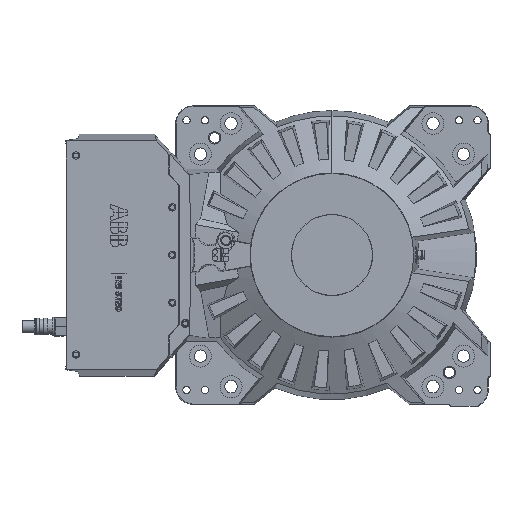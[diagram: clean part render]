
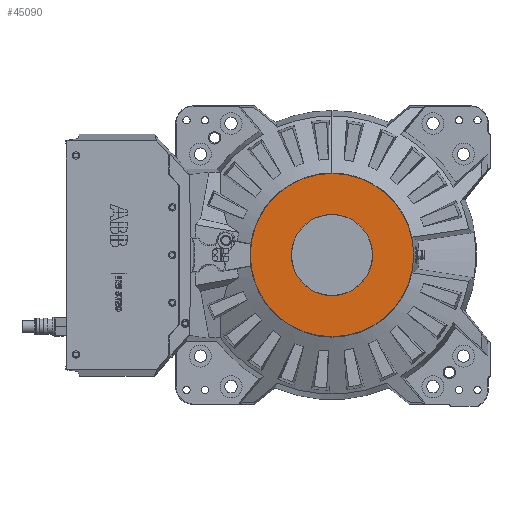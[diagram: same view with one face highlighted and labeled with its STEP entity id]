
A CAD part, top view. The second image highlights one B-rep face of the part: STEP entity #45090.
In plain terms, the highlighted planar face has unit normal (0, 0, 1).
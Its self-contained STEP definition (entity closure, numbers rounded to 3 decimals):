
#537 = VERTEX_POINT ( 'NONE', #25051 ) ;
#1494 = PLANE ( 'NONE',  #50405 ) ;
#3892 = CARTESIAN_POINT ( 'NONE',  ( 0., 0., 215. ) ) ;
#5431 = EDGE_CURVE ( 'NONE', #10271, #11794, #50352, .T. ) ;
#6269 = ORIENTED_EDGE ( 'NONE', *, *, #30752, .T. ) ;
#8191 = DIRECTION ( 'NONE',  ( 0., 0., 1. ) ) ;
#9091 = DIRECTION ( 'NONE',  ( 0., 0., 1. ) ) ;
#9297 = DIRECTION ( 'NONE',  ( 0., 0., 1. ) ) ;
#10271 = VERTEX_POINT ( 'NONE', #43069 ) ;
#11763 = ORIENTED_EDGE ( 'NONE', *, *, #17246, .F. ) ;
#11794 = VERTEX_POINT ( 'NONE', #49373 ) ;
#17057 = DIRECTION ( 'NONE',  ( 0., -1., 0. ) ) ;
#17246 = EDGE_CURVE ( 'NONE', #537, #47939, #48172, .T. ) ;
#17729 = CARTESIAN_POINT ( 'NONE',  ( 0., 0., 215. ) ) ;
#21941 = AXIS2_PLACEMENT_3D ( 'NONE', #3892, #27305, #50129 ) ;
#25020 = EDGE_LOOP ( 'NONE', ( #11763, #29346 ) ) ;
#25051 = CARTESIAN_POINT ( 'NONE',  ( 0., -97.773, 215. ) ) ;
#26970 = DIRECTION ( 'NONE',  ( 0., -1., 0. ) ) ;
#27305 = DIRECTION ( 'NONE',  ( 0., 0., 1. ) ) ;
#29121 = CARTESIAN_POINT ( 'NONE',  ( 97.773, 0., 215. ) ) ;
#29346 = ORIENTED_EDGE ( 'NONE', *, *, #40659, .F. ) ;
#30752 = EDGE_CURVE ( 'NONE', #11794, #10271, #53545, .T. ) ;
#36208 = CARTESIAN_POINT ( 'NONE',  ( 0., 0., 215. ) ) ;
#36316 = ORIENTED_EDGE ( 'NONE', *, *, #5431, .T. ) ;
#40191 = DIRECTION ( 'NONE',  ( 0., 0., 1. ) ) ;
#40659 = EDGE_CURVE ( 'NONE', #47939, #537, #51479, .T. ) ;
#42264 = DIRECTION ( 'NONE',  ( 0., -1., 0. ) ) ;
#43069 = CARTESIAN_POINT ( 'NONE',  ( 0., -196.886, 215. ) ) ;
#43298 = DIRECTION ( 'NONE',  ( 0., -1., 0. ) ) ;
#43407 = FACE_OUTER_BOUND ( 'NONE', #58042, .T. ) ;
#45090 = ADVANCED_FACE ( 'NONE', ( #57867, #43407 ), #1494, .T. ) ;
#47939 = VERTEX_POINT ( 'NONE', #60170 ) ;
#48172 = CIRCLE ( 'NONE', #54027, 97.773 ) ;
#48634 = AXIS2_PLACEMENT_3D ( 'NONE', #51522, #9297, #42264 ) ;
#49373 = CARTESIAN_POINT ( 'NONE',  ( 0., 196.886, 215. ) ) ;
#50129 = DIRECTION ( 'NONE',  ( 0., -1., 0. ) ) ;
#50352 = CIRCLE ( 'NONE', #56199, 196.886 ) ;
#50405 = AXIS2_PLACEMENT_3D ( 'NONE', #29121, #9091, #43298 ) ;
#51479 = CIRCLE ( 'NONE', #21941, 97.773 ) ;
#51522 = CARTESIAN_POINT ( 'NONE',  ( 0., 0., 215. ) ) ;
#53545 = CIRCLE ( 'NONE', #48634, 196.886 ) ;
#54027 = AXIS2_PLACEMENT_3D ( 'NONE', #36208, #40191, #17057 ) ;
#56199 = AXIS2_PLACEMENT_3D ( 'NONE', #17729, #8191, #26970 ) ;
#57867 = FACE_BOUND ( 'NONE', #25020, .T. ) ;
#58042 = EDGE_LOOP ( 'NONE', ( #36316, #6269 ) ) ;
#60170 = CARTESIAN_POINT ( 'NONE',  ( 0., 97.773, 215. ) ) ;
